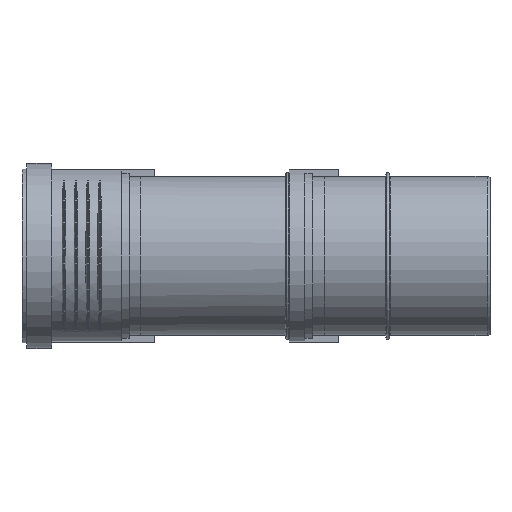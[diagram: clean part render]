
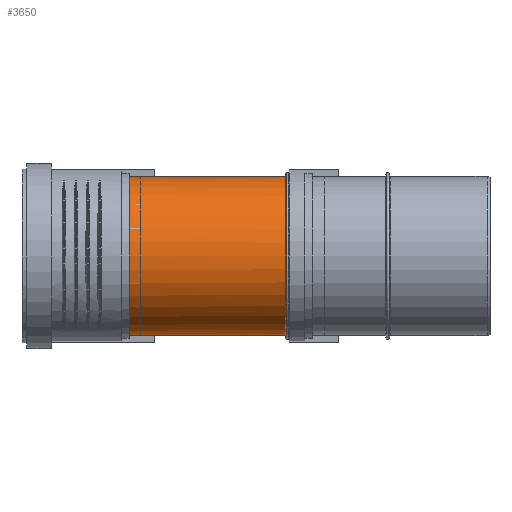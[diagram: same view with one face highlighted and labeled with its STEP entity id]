
A CAD part, left-side view. The second image highlights one B-rep face of the part: STEP entity #3650.
In plain terms, the highlighted cylindrical face has radius 55.1 mm (diameter 110.2 mm), a full revolution.
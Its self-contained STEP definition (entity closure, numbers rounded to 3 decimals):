
#414=B_SPLINE_CURVE_WITH_KNOTS($,3,(#6647,#6648,#6649,#6650,#6651,#6652,
#6653,#6654,#6655,#6656,#6657,#6658,#6659,#6660,#6661,#6662,#6663,#6664,
#6665,#6666,#6667,#6668,#6669,#6670,#6671,#6672,#6673,#6674,#6675,#6676,
#6677,#6678,#6679,#6680,#6681,#6682,#6683,#6684,#6685,#6686),
 .UNSPECIFIED.,.F.,.F.,(4,2,2,2,2,2,2,2,2,2,2,2,2,2,2,2,2,2,2,4),(0.,1.705,
3.341,4.671,6.106,8.116,11.431,
13.635,15.317,16.372,17.354,18.712,
20.313,22.585,25.91,28.179,29.961,
31.68,33.085,34.827),.UNSPECIFIED.);
#696=CYLINDRICAL_SURFACE($,#3974,55.1);
#789=FACE_BOUND($,#1203,.T.);
#945=FACE_OUTER_BOUND($,#1202,.T.);
#1202=EDGE_LOOP($,(#2796,#2797));
#1203=EDGE_LOOP($,(#2798));
#1455=CIRCLE($,#3975,55.1);
#1456=CIRCLE($,#3976,55.1);
#1703=VERTEX_POINT($,#6631);
#1704=VERTEX_POINT($,#6632);
#1705=VERTEX_POINT($,#6689);
#2112=EDGE_CURVE($,#1704,#1703,#414,.T.);
#2113=EDGE_CURVE($,#1703,#1704,#1455,.T.);
#2114=EDGE_CURVE($,#1705,#1705,#1456,.T.);
#2796=ORIENTED_EDGE($,*,*,#2112,.T.);
#2797=ORIENTED_EDGE($,*,*,#2113,.T.);
#2798=ORIENTED_EDGE($,*,*,#2114,.F.);
#3650=ADVANCED_FACE($,(#945,#789),#696,.T.);
#3974=AXIS2_PLACEMENT_3D($,#6687,#4656,#4657);
#3975=AXIS2_PLACEMENT_3D($,#6688,#4658,#4659);
#3976=AXIS2_PLACEMENT_3D($,#6690,#4660,#4661);
#4656=DIRECTION('center_axis',(0.,1.,0.));
#4657=DIRECTION('ref_axis',(-1.,0.,0.));
#4658=DIRECTION('center_axis',(0.,1.,0.));
#4659=DIRECTION('ref_axis',(-1.,0.,0.));
#4660=DIRECTION('center_axis',(0.,1.,0.));
#4661=DIRECTION('ref_axis',(-1.,0.,0.));
#6631=CARTESIAN_POINT('',(53.237,71.6,-14.208));
#6632=CARTESIAN_POINT('',(53.237,71.6,14.208));
#6647=CARTESIAN_POINT('Ctrl Pts',(53.237,71.6,14.208));
#6648=CARTESIAN_POINT('Ctrl Pts',(51.802,72.755,19.585));
#6649=CARTESIAN_POINT('Ctrl Pts',(49.647,74.554,24.355));
#6650=CARTESIAN_POINT('Ctrl Pts',(44.92,79.398,32.224));
#6651=CARTESIAN_POINT('Ctrl Pts',(42.362,82.399,35.395));
#6652=CARTESIAN_POINT('Ctrl Pts',(38.172,89.277,39.829));
#6653=CARTESIAN_POINT('Ctrl Pts',(36.565,92.733,41.248));
#6654=CARTESIAN_POINT('Ctrl Pts',(34.115,100.714,43.301));
#6655=CARTESIAN_POINT('Ctrl Pts',(33.412,105.09,43.814));
#6656=CARTESIAN_POINT('Ctrl Pts',(32.921,115.795,44.185));
#6657=CARTESIAN_POINT('Ctrl Pts',(33.609,122.188,43.691));
#6658=CARTESIAN_POINT('Ctrl Pts',(36.825,138.226,41.069));
#6659=CARTESIAN_POINT('Ctrl Pts',(40.404,148.062,37.955));
#6660=CARTESIAN_POINT('Ctrl Pts',(46.489,161.9,29.852));
#6661=CARTESIAN_POINT('Ctrl Pts',(48.838,166.537,25.971));
#6662=CARTESIAN_POINT('Ctrl Pts',(52.184,172.844,18.074));
#6663=CARTESIAN_POINT('Ctrl Pts',(53.422,175.05,14.187));
#6664=CARTESIAN_POINT('Ctrl Pts',(54.701,177.297,7.168));
#6665=CARTESIAN_POINT('Ctrl Pts',(55.003,177.818,4.355));
#6666=CARTESIAN_POINT('Ctrl Pts',(55.152,178.076,-1.202));
#6667=CARTESIAN_POINT('Ctrl Pts',(55.027,177.861,-3.864));
#6668=CARTESIAN_POINT('Ctrl Pts',(54.292,176.58,-10.08));
#6669=CARTESIAN_POINT('Ctrl Pts',(53.529,175.247,-13.462));
#6670=CARTESIAN_POINT('Ctrl Pts',(51.394,171.371,-20.236));
#6671=CARTESIAN_POINT('Ctrl Pts',(49.956,168.687,-23.463));
#6672=CARTESIAN_POINT('Ctrl Pts',(46.284,161.375,-30.235));
#6673=CARTESIAN_POINT('Ctrl Pts',(43.945,156.352,-33.4));
#6674=CARTESIAN_POINT('Ctrl Pts',(38.681,143.223,-39.533));
#6675=CARTESIAN_POINT('Ctrl Pts',(35.824,134.382,-41.909));
#6676=CARTESIAN_POINT('Ctrl Pts',(33.27,119.36,-43.942));
#6677=CARTESIAN_POINT('Ctrl Pts',(32.82,112.961,-44.265));
#6678=CARTESIAN_POINT('Ctrl Pts',(33.857,101.897,-43.474));
#6679=CARTESIAN_POINT('Ctrl Pts',(34.943,97.24,-42.665));
#6680=CARTESIAN_POINT('Ctrl Pts',(38.336,88.785,-39.64));
#6681=CARTESIAN_POINT('Ctrl Pts',(40.481,85.23,-37.554));
#6682=CARTESIAN_POINT('Ctrl Pts',(44.616,79.755,-32.467));
#6683=CARTESIAN_POINT('Ctrl Pts',(46.49,77.736,-29.779));
#6684=CARTESIAN_POINT('Ctrl Pts',(50.268,74.03,-22.971));
#6685=CARTESIAN_POINT('Ctrl Pts',(52.027,72.573,-18.74));
#6686=CARTESIAN_POINT('Ctrl Pts',(53.237,71.6,-14.208));
#6687=CARTESIAN_POINT('Origin',(0.,128.73,0.));
#6688=CARTESIAN_POINT('Origin',(0.,71.6,0.));
#6689=CARTESIAN_POINT('',(-55.1,185.86,0.));
#6690=CARTESIAN_POINT('Origin',(0.,185.86,0.));
